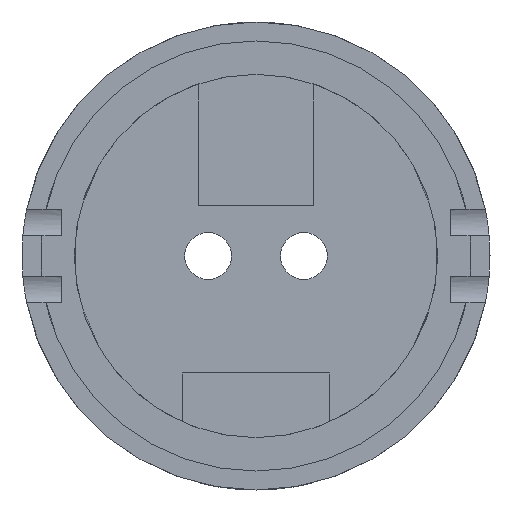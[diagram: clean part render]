
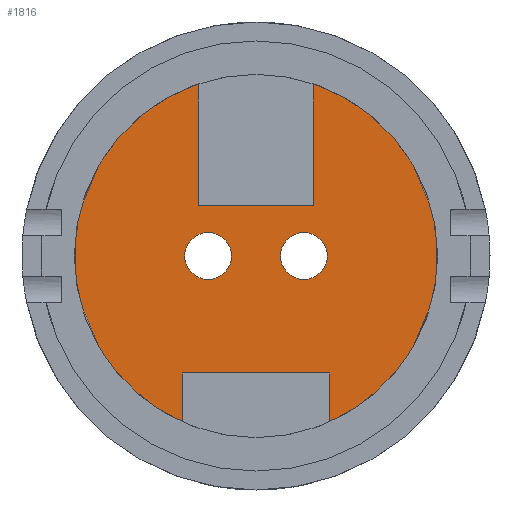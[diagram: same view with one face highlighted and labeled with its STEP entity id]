
A CAD part, left-side view. The second image highlights one B-rep face of the part: STEP entity #1816.
In plain terms, the highlighted planar face has unit normal (-1, 0, 0).
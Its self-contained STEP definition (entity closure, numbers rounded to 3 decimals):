
#1552 = CYLINDRICAL_SURFACE('',#1553,16.3);
#1553 = AXIS2_PLACEMENT_3D('',#1554,#1555,#1556);
#1554 = CARTESIAN_POINT('',(136.56,0.,0.));
#1555 = DIRECTION('',(1.,0.,0.));
#1556 = DIRECTION('',(0.,0.,-1.));
#1599 = VERTEX_POINT('',#1600);
#1600 = CARTESIAN_POINT('',(149.56,0.,-16.3));
#1621 = EDGE_CURVE('',#1599,#1599,#1622,.T.);
#1622 = SURFACE_CURVE('',#1623,(#1628,#1635),.PCURVE_S1.);
#1623 = CIRCLE('',#1624,16.3);
#1624 = AXIS2_PLACEMENT_3D('',#1625,#1626,#1627);
#1625 = CARTESIAN_POINT('',(149.56,0.,0.));
#1626 = DIRECTION('',(1.,-0.,0.));
#1627 = DIRECTION('',(0.,0.,-1.));
#1628 = PCURVE('',#1552,#1629);
#1629 = DEFINITIONAL_REPRESENTATION('',(#1630),#1634);
#1630 = LINE('',#1631,#1632);
#1631 = CARTESIAN_POINT('',(0.,13.));
#1632 = VECTOR('',#1633,1.);
#1633 = DIRECTION('',(1.,0.));
#1634 = ( GEOMETRIC_REPRESENTATION_CONTEXT(2) 
PARAMETRIC_REPRESENTATION_CONTEXT() REPRESENTATION_CONTEXT('2D SPACE',''
  ) );
#1635 = PCURVE('',#1636,#1641);
#1636 = PLANE('',#1637);
#1637 = AXIS2_PLACEMENT_3D('',#1638,#1639,#1640);
#1638 = CARTESIAN_POINT('',(149.56,0.,0.));
#1639 = DIRECTION('',(1.,0.,0.));
#1640 = DIRECTION('',(0.,0.,-1.));
#1641 = DEFINITIONAL_REPRESENTATION('',(#1642),#1646);
#1642 = CIRCLE('',#1643,16.3);
#1643 = AXIS2_PLACEMENT_2D('',#1644,#1645);
#1644 = CARTESIAN_POINT('',(0.,0.));
#1645 = DIRECTION('',(1.,0.));
#1646 = ( GEOMETRIC_REPRESENTATION_CONTEXT(2) 
PARAMETRIC_REPRESENTATION_CONTEXT() REPRESENTATION_CONTEXT('2D SPACE',''
  ) );
#1816 = ADVANCED_FACE('',(#1817,#1820,#1851),#1636,.F.);
#1817 = FACE_BOUND('',#1818,.F.);
#1818 = EDGE_LOOP('',(#1819));
#1819 = ORIENTED_EDGE('',*,*,#1621,.T.);
#1820 = FACE_BOUND('',#1821,.F.);
#1821 = EDGE_LOOP('',(#1822));
#1822 = ORIENTED_EDGE('',*,*,#1823,.F.);
#1823 = EDGE_CURVE('',#1824,#1824,#1826,.T.);
#1824 = VERTEX_POINT('',#1825);
#1825 = CARTESIAN_POINT('',(149.56,-4.3,-2.1));
#1826 = SURFACE_CURVE('',#1827,(#1832,#1839),.PCURVE_S1.);
#1827 = CIRCLE('',#1828,2.1);
#1828 = AXIS2_PLACEMENT_3D('',#1829,#1830,#1831);
#1829 = CARTESIAN_POINT('',(149.56,-4.3,0.));
#1830 = DIRECTION('',(1.,0.,0.));
#1831 = DIRECTION('',(0.,0.,-1.));
#1832 = PCURVE('',#1636,#1833);
#1833 = DEFINITIONAL_REPRESENTATION('',(#1834),#1838);
#1834 = CIRCLE('',#1835,2.1);
#1835 = AXIS2_PLACEMENT_2D('',#1836,#1837);
#1836 = CARTESIAN_POINT('',(0.,-4.3));
#1837 = DIRECTION('',(1.,0.));
#1838 = ( GEOMETRIC_REPRESENTATION_CONTEXT(2) 
PARAMETRIC_REPRESENTATION_CONTEXT() REPRESENTATION_CONTEXT('2D SPACE',''
  ) );
#1839 = PCURVE('',#1840,#1845);
#1840 = CYLINDRICAL_SURFACE('',#1841,2.1);
#1841 = AXIS2_PLACEMENT_3D('',#1842,#1843,#1844);
#1842 = CARTESIAN_POINT('',(147.47,-4.3,0.));
#1843 = DIRECTION('',(1.,0.,0.));
#1844 = DIRECTION('',(0.,0.,-1.));
#1845 = DEFINITIONAL_REPRESENTATION('',(#1846),#1850);
#1846 = LINE('',#1847,#1848);
#1847 = CARTESIAN_POINT('',(0.,2.09));
#1848 = VECTOR('',#1849,1.);
#1849 = DIRECTION('',(1.,0.));
#1850 = ( GEOMETRIC_REPRESENTATION_CONTEXT(2) 
PARAMETRIC_REPRESENTATION_CONTEXT() REPRESENTATION_CONTEXT('2D SPACE',''
  ) );
#1851 = FACE_BOUND('',#1852,.F.);
#1852 = EDGE_LOOP('',(#1853));
#1853 = ORIENTED_EDGE('',*,*,#1854,.F.);
#1854 = EDGE_CURVE('',#1855,#1855,#1857,.T.);
#1855 = VERTEX_POINT('',#1856);
#1856 = CARTESIAN_POINT('',(149.56,4.3,-2.1));
#1857 = SURFACE_CURVE('',#1858,(#1863,#1870),.PCURVE_S1.);
#1858 = CIRCLE('',#1859,2.1);
#1859 = AXIS2_PLACEMENT_3D('',#1860,#1861,#1862);
#1860 = CARTESIAN_POINT('',(149.56,4.3,0.));
#1861 = DIRECTION('',(1.,0.,0.));
#1862 = DIRECTION('',(0.,0.,-1.));
#1863 = PCURVE('',#1636,#1864);
#1864 = DEFINITIONAL_REPRESENTATION('',(#1865),#1869);
#1865 = CIRCLE('',#1866,2.1);
#1866 = AXIS2_PLACEMENT_2D('',#1867,#1868);
#1867 = CARTESIAN_POINT('',(0.,4.3));
#1868 = DIRECTION('',(1.,0.));
#1869 = ( GEOMETRIC_REPRESENTATION_CONTEXT(2) 
PARAMETRIC_REPRESENTATION_CONTEXT() REPRESENTATION_CONTEXT('2D SPACE',''
  ) );
#1870 = PCURVE('',#1871,#1876);
#1871 = CYLINDRICAL_SURFACE('',#1872,2.1);
#1872 = AXIS2_PLACEMENT_3D('',#1873,#1874,#1875);
#1873 = CARTESIAN_POINT('',(147.47,4.3,0.));
#1874 = DIRECTION('',(1.,0.,0.));
#1875 = DIRECTION('',(0.,0.,-1.));
#1876 = DEFINITIONAL_REPRESENTATION('',(#1877),#1881);
#1877 = LINE('',#1878,#1879);
#1878 = CARTESIAN_POINT('',(0.,2.09));
#1879 = VECTOR('',#1880,1.);
#1880 = DIRECTION('',(1.,0.));
#1881 = ( GEOMETRIC_REPRESENTATION_CONTEXT(2) 
PARAMETRIC_REPRESENTATION_CONTEXT() REPRESENTATION_CONTEXT('2D SPACE',''
  ) );
